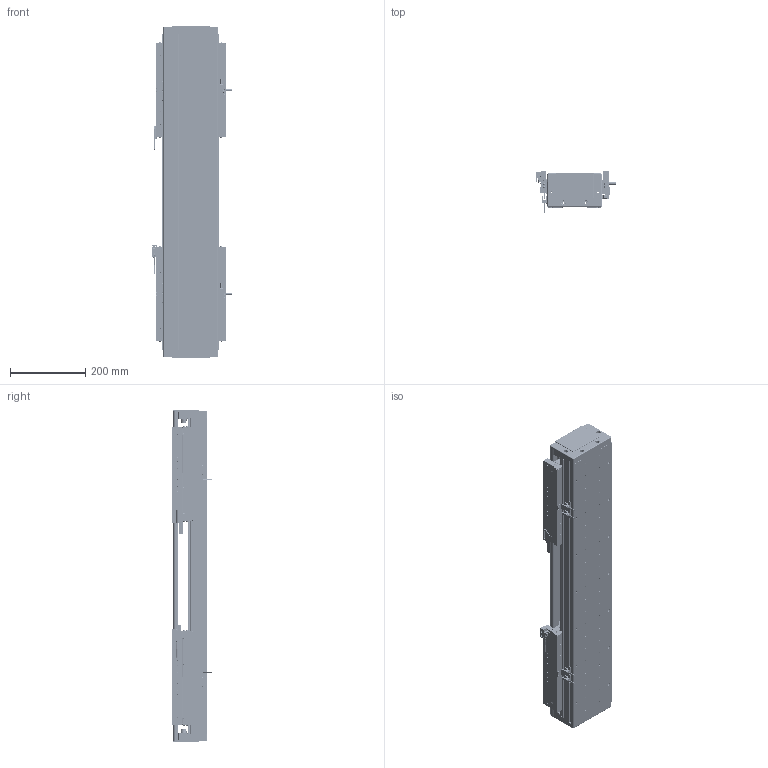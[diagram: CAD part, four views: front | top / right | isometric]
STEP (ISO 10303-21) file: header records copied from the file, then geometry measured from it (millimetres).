
FILE_DESCRIPTION (( 'STEP AP203' ), '1' );
FILE_NAME ('DA-C145-2-C3-T260-C010-0.2 眻盄萇儂.STEP', '2025-08-13T10:13:59', ( '' ), ( '' ), 'SwSTEP 2.0', 'SolidWorks 2019', '' );
FILE_SCHEMA (( 'CONFIG_CONTROL_DESIGN' ));
Length unit declared in the file: millimetre
Products named in the file (35): 葩璃 PM-T45^DA-C145-2-C3-T-C010-0.2; CU145-W 幗紩賑怢-1; DA-C145-2-C3-T260-C010-0.2 眻盄萇儂; 复件 DA145-GYP-00 光电感应片^DA-C145-2-C3-T-C010-0.2; 葩璃 XD-U-02L 棠掑喜^DA-C145-2-C3-T-C010-0.2; 葩璃 DA145-C3-DP-A-00 菜えA^CU145-W 幗紩賑怢; 葩璃 DA145-C3-DP-B-00 菜えB^CU145-W 幗紩賑怢; CU145-W-00 珨极趙賑雄怢啣-1; DKW-GYP-ZJ-00 笢潔嫖萇覜茼え; 复件 纯铜油杯 6x6mm^CU145-W 滚珠滑台; 葩璃 DMA-010-0.2 黍杅芛^DA-C145-2-C3-T-C010-0.2; 复件 DA95-HK-GT-00 滑块钢轨^CU145-W-00 一体化滑动台板; 葩璃 DA95-GT-T-00^IU-CU145-L 菁釱絳寢; 葩璃 DA145-T-003-00 裔啣^DA-C145-2-C3-T-C010-0.2; 葩璃 CKM03-W060-C1C2-TP-0.2^DA-C145-2-C3-T-C010-0.2; CU145-W 幗紩賑怢; DKW-KGZ-ZJ-00 中间光电开关支架; 葩璃 PM-Y65^DA-C145-2-C3-T-C010-0.2; 葩璃 DA145-DG-H-N-00 傷裔^DA-C145-2-C3-T-C010-0.2; 葩璃 CKMA01-W060-TRL^DA-C145-2-C3-T-C010-0.2; 复件 半圆头内六角螺钉 M3×6^CU145-W 滚珠滑台; CU145-W-00 珨极趙賑雄怢啣; 复件 DA95-MFP-01 密封片^CU145-W 滚珠滑台; 复件 DA145-C3-YB-B-00 压板B^CU145-W 滚珠滑台; 复件 DA95-DB-00  挡板^CU145-W 滚珠滑台; 66245-CU145-HT-W-00 賑雄怢啣(3D芞祧)(00); 葩璃 鞠褒情蹟譫 M3^DA-C145-2-C3-T-C010-0.2; IU-CU145-L 菁釱絳寢; 复件 内六角平端紧定螺钉 GB.T77-2000 M5×10^CU145-W 滚珠滑台; TAY01-M8; 复件 DA145-C3-DK-00 挡块^CU145-W 滚珠滑台; DKW168-HXJ-ZJ-00 笢潔滅袉砎蝶; 复件 DA145-C3-YB-A-00 压板A^CU145-W 滚珠滑台; 葩璃 DA95-HXJ-00 遣喳砎蝶^DA-C145-2-C3-T-C010-0.2; IU-CU145-L-00 菁釱(L840)
Assembly tree (175 placements, depth 4):
  DA-C145-2-C3-T260-C010-0.2 眻盄萇儂
    IU-CU145-L 菁釱絳寢
      IU-CU145-L-00 菁釱(L840)
      葩璃 DA95-GT-T-00^IU-CU145-L 菁釱絳寢  x4
    CU145-W 幗紩賑怢
      CU145-W-00 珨极趙賑雄怢啣
        66245-CU145-HT-W-00 賑雄怢啣(3D芞祧)(00)
        复件 DA95-HK-GT-00 滑块钢轨^CU145-W-00 一体化滑动台板  x8
      复件 DA95-MFP-01 密封片^CU145-W 滚珠滑台  x8
      复件 DA95-DB-00  挡板^CU145-W 滚珠滑台  x8
      复件 内六角平端紧定螺钉 GB.T77-2000 M5×10^CU145-W 滚珠滑台  x4
      复件 纯铜油杯 6x6mm^CU145-W 滚珠滑台  x4
      复件 半圆头内六角螺钉 M3×6^CU145-W 滚珠滑台  x16
      复件 DA145-C3-DK-00 挡块^CU145-W 滚珠滑台  x4
      葩璃 DA145-C3-DP-B-00 菜えB^CU145-W 幗紩賑怢  x2
      复件 DA145-C3-YB-B-00 压板B^CU145-W 滚珠滑台  x2
      葩璃 DA145-C3-DP-A-00 菜えA^CU145-W 幗紩賑怢  x3
      复件 DA145-C3-YB-A-00 压板A^CU145-W 滚珠滑台  x3
      TAY01-M8  x4
    CU145-W 幗紩賑怢-1
      CU145-W-00 珨极趙賑雄怢啣-1
        66245-CU145-HT-W-00 賑雄怢啣(3D芞祧)(00)
        复件 DA95-HK-GT-00 滑块钢轨^CU145-W-00 一体化滑动台板  x8
      复件 DA95-MFP-01 密封片^CU145-W 滚珠滑台  x8
      复件 DA95-DB-00  挡板^CU145-W 滚珠滑台  x8
      复件 内六角平端紧定螺钉 GB.T77-2000 M5×10^CU145-W 滚珠滑台  x4
      复件 纯铜油杯 6x6mm^CU145-W 滚珠滑台  x4
      复件 半圆头内六角螺钉 M3×6^CU145-W 滚珠滑台  x16
      复件 DA145-C3-DK-00 挡块^CU145-W 滚珠滑台  x4
      葩璃 DA145-C3-DP-B-00 菜えB^CU145-W 幗紩賑怢  x2
      复件 DA145-C3-YB-B-00 压板B^CU145-W 滚珠滑台  x2
      葩璃 DA145-C3-DP-A-00 菜えA^CU145-W 幗紩賑怢  x3
      复件 DA145-C3-YB-A-00 压板A^CU145-W 滚珠滑台  x3
      TAY01-M8  x4
    葩璃 CKMA01-W060-TRL^DA-C145-2-C3-T-C010-0.2
    葩璃 PM-T45^DA-C145-2-C3-T-C010-0.2  x4
    葩璃 XD-U-02L 棠掑喜^DA-C145-2-C3-T-C010-0.2
    葩璃 DA145-DG-H-N-00 傷裔^DA-C145-2-C3-T-C010-0.2  x2
    葩璃 DA145-T-003-00 裔啣^DA-C145-2-C3-T-C010-0.2
    葩璃 DA95-HXJ-00 遣喳砎蝶^DA-C145-2-C3-T-C010-0.2  x4
    葩璃 CKM03-W060-C1C2-TP-0.2^DA-C145-2-C3-T-C010-0.2  x2
    葩璃 DMA-010-0.2 黍杅芛^DA-C145-2-C3-T-C010-0.2  x2
    复件 DA145-GYP-00 光电感应片^DA-C145-2-C3-T-C010-0.2  x2
    DKW-GYP-ZJ-00 笢潔嫖萇覜茼え
    DKW-KGZ-ZJ-00 中间光电开关支架
    葩璃 PM-Y65^DA-C145-2-C3-T-C010-0.2
    葩璃 鞠褒情蹟譫 M3^DA-C145-2-C3-T-C010-0.2  x8
    DKW168-HXJ-ZJ-00 笢潔滅袉砎蝶
Bounding box: 213.7 x 108.45 x 880 mm (x, y, z)
Volume: 8097050 mm3; surface area: 2155761.2 mm2
Topology: 171 solids, 235 shells, 6799 faces, 17434 edges, 10655 vertices
Faces by surface type: plane 2926, cylinder 2585, cone 1120, torus 152, sphere 8, bspline 8
Entity records: 99173 total; most frequent: CARTESIAN_POINT 23246, DIRECTION 14433, ORIENTED_EDGE 14032, EDGE_CURVE 7016, AXIS2_PLACEMENT_3D 5223, VERTEX_POINT 4504, VECTOR 3987, LINE 3987
